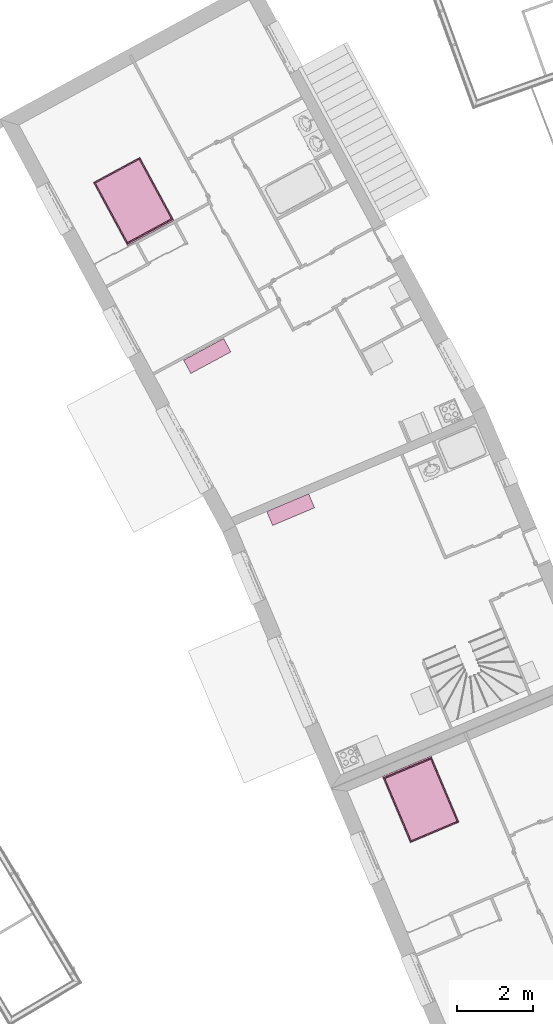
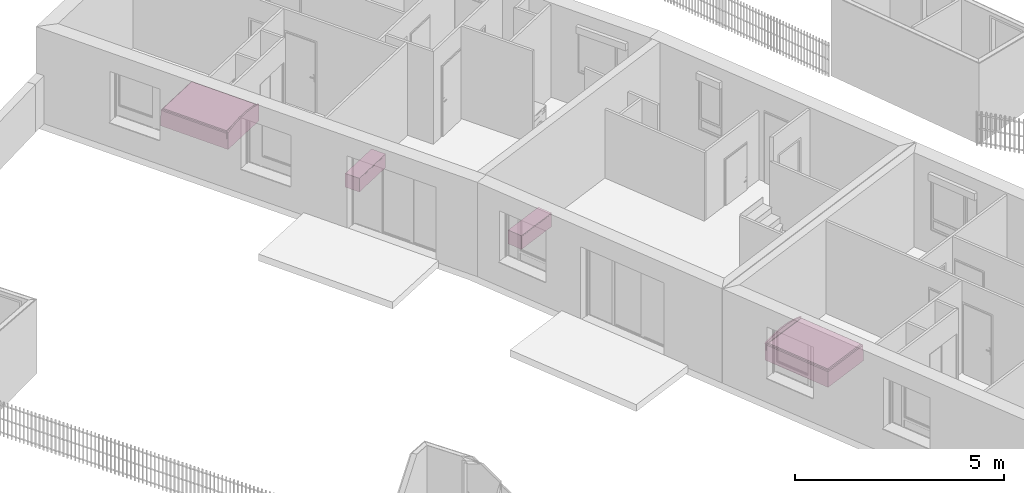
# One storey, part 159 of 195: 4 furnishings.
"""IFC2X3 building model written with IfcOpenShell, lengths in metres."""

from ifc_helpers import new_model, entity, si_unit, converted_unit, derived_unit, money_unit, direction, frame, origin_with_axes, place, context, subcontext, project, spatial, open_shell, faceted_brep, surface_model, source, transform, mapped, type_object, element, save


model = new_model("IFC2X3")

# Units and contexts
model_context = context("Model", 3, precision=1e-05, world=origin_with_axes(), true_north=direction((0.0, 1.0)))
body_context = subcontext(model_context, "Body", "Model", "MODEL_VIEW")
ifc_project = project(units=[si_unit("LENGTHUNIT", "METRE"), si_unit("AREAUNIT", "SQUARE_METRE"), si_unit("VOLUMEUNIT", "CUBIC_METRE"), converted_unit("PLANEANGLEUNIT", "DEGREE", entity("IfcPlaneAngleMeasure", 0.0174532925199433), si_unit("PLANEANGLEUNIT", "RADIAN"), dimensions=[0, 0, 0, 0, 0, 0, 0]), money_unit("CHF"), converted_unit("TIMEUNIT", "Year", entity("IfcTimeMeasure", 31557600.0), si_unit("TIMEUNIT", "SECOND"), dimensions=[0, 0, 1, 0, 0, 0, 0]), si_unit("MASSUNIT", "GRAM", prefix="KILO"), si_unit("THERMODYNAMICTEMPERATUREUNIT", "DEGREE_CELSIUS"), si_unit("LUMINOUSINTENSITYUNIT", "LUMEN"), si_unit("ENERGYUNIT", "JOULE", prefix="MEGA"), derived_unit("THERMALCONDUCTANCEUNIT", [(si_unit("POWERUNIT", "WATT"), 1), (si_unit("LENGTHUNIT", "METRE"), -1), (si_unit("THERMODYNAMICTEMPERATUREUNIT", "KELVIN"), -1)]), derived_unit("SPECIFICHEATCAPACITYUNIT", [(si_unit("ENERGYUNIT", "JOULE"), 1), (si_unit("MASSUNIT", "GRAM", prefix="KILO"), -1), (si_unit("THERMODYNAMICTEMPERATUREUNIT", "KELVIN"), -1)]), derived_unit("MASSDENSITYUNIT", [(si_unit("MASSUNIT", "GRAM", prefix="KILO"), 1), (si_unit("VOLUMEUNIT", "CUBIC_METRE"), -1)])], contexts=[model_context])

# Site, building, storey
site_placement = place(None, origin_with_axes())
site = spatial("IfcSite", under=ifc_project, at=site_placement, Name="Site", CompositionType="ELEMENT")
building_placement = place(site_placement, origin_with_axes())
building = spatial("IfcBuilding", under=site, at=building_placement, Name="Bâtiment", CompositionType="ELEMENT")
storey_placement = place(building_placement, origin_with_axes())
storey = spatial("IfcBuildingStorey", under=building, at=storey_placement, Name="rdc", CompositionType="ELEMENT", Elevation=0.0)

# Furnishings
furnishing_element_type_1 = type_object("IfcFurnishingElementType", Name="Meuble à plans 27")
shared_shape_1 = source(origin_with_axes(), body_context, "Body", "SurfaceModel", [
    surface_model("IfcShellBasedSurfaceModel", [(-1.18, 0.02, 0.0), (-1.18, 0.4, 0.0), (-0.02, 0.4, 0.0), (-0.02, 0.02, 0.0)], [open_shell([[[0, 1, 2, 3]]])]),
    faceted_brep([(0.0, 0.4, 0.0), (0.0, 0.0, 0.0), (-1.2, 0.0, 0.0), (-1.2, 0.4, 0.0), (0.0, 0.4, 0.4), (0.0, 0.0, 0.4), (-1.2, 0.0, 0.4), (-0.02, 0.0, 0.02), (-1.18, 0.0, 0.02), (-1.18, 0.0, 0.38), (-0.02, 0.0, 0.38), (-1.2, 0.4, 0.4), (-0.02, 0.4, 0.01999999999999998), (-0.02, 0.4, 0.38), (-1.18, 0.4, 0.38), (-1.18, 0.4, 0.01999999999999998)], [[[0, 1, 2, 3]], [[4, 5, 1, 0]], [[1, 5, 6, 2], [7, 8, 9, 10]], [[3, 2, 6, 11]], [[0, 3, 11, 4], [12, 13, 14, 15]], [[11, 6, 5, 4]], [[15, 8, 7, 12]], [[14, 9, 8, 15]], [[13, 10, 9, 14]], [[12, 7, 10, 13]]]),
    faceted_brep([(-1.18, 0.4, 0.01999999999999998), (-1.18, 0.4, 0.38), (-0.02, 0.4, 0.38), (-0.02, 0.4, 0.01999999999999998), (-1.18, 0.38, 0.01999999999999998), (-1.18, 0.3800000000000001, 0.38), (-0.02, 0.3800000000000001, 0.38), (-0.02, 0.38, 0.01999999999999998)], [[[0, 1, 2, 3]], [[0, 4, 5, 1]], [[1, 5, 6, 2]], [[2, 6, 7, 3]], [[3, 7, 4, 0]], [[7, 6, 5, 4]]]),
    faceted_brep([(-1.18, 0.0, 0.02), (-1.18, 0.38, 0.02), (-0.02, 0.38, 0.02), (-0.02, 0.0, 0.02), (-1.18, 0.0, 0.3750000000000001), (-1.18, 0.38, 0.3750000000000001), (-0.02, 0.38, 0.3750000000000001), (-0.02, 0.0, 0.3750000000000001)], [[[0, 1, 2, 3]], [[0, 4, 5, 1]], [[1, 5, 6, 2]], [[2, 6, 7, 3]], [[3, 7, 4, 0]], [[7, 6, 5, 4]]]),
])
for number, where, z_axis, x_axis, name in (
    (1, (9562.856587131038, -1037.918889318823, 57.92018680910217), (0.0, 0.0, 1.0), (0.9214205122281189, 0.3885669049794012, 0.0), "Obj.-376"),
    (2, (9560.64896007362, -1033.806633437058, 57.92018680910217), (0.0, 0.0, 1.0), (0.8798137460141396, 0.4753186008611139, 0.0), "Obj.-376"),
):
    element("IfcFurnishingElement", number, at=place(storey_placement, frame(where, z_axis=z_axis, x_axis=x_axis)), inside=storey, type_object=furnishing_element_type_1, Name=name, context=body_context, shape_type="MappedRepresentation", body=[
        mapped(shared_shape_1, transform((0.0, 0.0, 0.0))),
    ])
furnishing_element_type_2 = type_object("IfcFurnishingElementType", Name="Lit double 01")
shared_shape_2 = source(origin_with_axes(), body_context, "Body", "Brep", [
    faceted_brep([(0.0, 1.895, 0.0), (0.0, 1.865, 0.0), (-1.4, 1.865, 0.0), (-1.4, 1.895, 0.0), (0.0, 1.895, 0.48), (0.0, 1.865, 0.48), (-0.276362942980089, 1.865, 0.5438448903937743), (-0.558179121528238, 1.865, 0.5759741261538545), (-0.8418208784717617, 1.865, 0.5759741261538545), (-1.123637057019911, 1.865, 0.5438448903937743), (-1.4, 1.865, 0.48), (-1.4, 1.865, 0.4799), (-1.4, 1.895, 0.4799), (-1.4, 1.895, 0.48), (-1.123637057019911, 1.895, 0.5438448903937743), (-0.8418208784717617, 1.895, 0.5759741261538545), (-0.558179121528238, 1.895, 0.5759741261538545), (-0.276362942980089, 1.895, 0.5438448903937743)], [[[0, 1, 2, 3]], [[4, 5, 1, 0]], [[1, 5, 6, 7, 8, 9, 10, 11, 2]], [[3, 2, 11, 12]], [[0, 3, 12, 13, 14, 15, 16, 17, 4]], [[17, 6, 5, 4]], [[16, 7, 6, 17]], [[15, 8, 7, 16]], [[14, 9, 8, 15]], [[13, 10, 9, 14]], [[12, 11, 10, 13]]]),
    faceted_brep([(-1.4, 1.9, 0.48), (-1.4, 1.86, 0.48), (-1.399999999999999, 1.86, 0.4999999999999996), (-1.399999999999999, 1.9, 0.4999999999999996), (-1.123637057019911, 1.9, 0.5438448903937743), (-1.123637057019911, 1.86, 0.5438448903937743), (-0.8418208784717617, 1.86, 0.5759741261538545), (-0.558179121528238, 1.86, 0.5759741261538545), (-0.276362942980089, 1.86, 0.5438448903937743), (0.0, 1.86, 0.48), (0.0, 1.86, 0.4999), (0.0, 1.86, 0.5), (-0.276362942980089, 1.86, 0.5638448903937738), (-0.5581791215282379, 1.86, 0.5959741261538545), (-0.8418208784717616, 1.86, 0.5959741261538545), (-1.123637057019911, 1.86, 0.5638448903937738), (-1.123637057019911, 1.9, 0.5638448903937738), (-0.8418208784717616, 1.9, 0.5959741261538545), (-0.5581791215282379, 1.9, 0.5959741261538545), (-0.276362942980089, 1.9, 0.5638448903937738), (0.0, 1.9, 0.5), (0.0, 1.9, 0.4999), (0.0, 1.9, 0.48), (-0.276362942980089, 1.9, 0.5438448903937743), (-0.558179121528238, 1.9, 0.5759741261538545), (-0.8418208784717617, 1.9, 0.5759741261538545)], [[[0, 1, 2, 3]], [[4, 5, 1, 0]], [[1, 5, 6, 7, 8, 9, 10, 11, 12, 13, 14, 15, 2]], [[3, 2, 15, 16]], [[0, 3, 16, 17, 18, 19, 20, 21, 22, 23, 24, 25, 4]], [[25, 6, 5, 4]], [[24, 7, 6, 25]], [[23, 8, 7, 24]], [[22, 9, 8, 23]], [[21, 10, 9, 22]], [[20, 11, 10, 21]], [[19, 12, 11, 20]], [[18, 13, 12, 19]], [[17, 14, 13, 18]], [[16, 15, 14, 17]]]),
    faceted_brep([(-1.4, 0.0, 0.0), (-1.4, 1.865, 0.0), (0.0, 1.865, 0.0), (0.0, 0.0, 0.0), (-1.4, 0.0, 0.3), (-1.4, 1.865, 0.3), (0.0, 1.865, 0.3), (0.0, 0.0, 0.3)], [[[0, 1, 2, 3]], [[0, 4, 5, 1]], [[1, 5, 6, 2]], [[2, 6, 7, 3]], [[3, 7, 4, 0]], [[7, 6, 5, 4]]]),
    faceted_brep([(0.0, 0.02, 0.43), (-0.002679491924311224, 0.01, 0.43), (-0.009999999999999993, 0.002679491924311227, 0.43), (-0.01999999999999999, 0.0, 0.43), (-1.38, 0.0, 0.43), (-1.39, 0.002679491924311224, 0.43), (-1.397320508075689, 0.009999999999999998, 0.43), (-1.4, 0.02, 0.43), (-1.4, 1.845, 0.43), (-1.397320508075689, 1.855, 0.43), (-1.39, 1.862320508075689, 0.43), (-1.38, 1.865, 0.43), (-0.02, 1.865, 0.43), (-0.009999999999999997, 1.862320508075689, 0.43), (-0.002679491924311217, 1.855, 0.43), (0.0, 1.845, 0.43), (3.895163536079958e-10, 0.02000000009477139, 0.44), (-0.002679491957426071, 0.0100000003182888, 0.44), (-0.0100000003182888, 0.002679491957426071, 0.44), (-0.02000000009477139, -3.895163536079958e-10, 0.44), (-1.380000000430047, -3.895163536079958e-10, 0.44), (-1.39000000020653, 0.002679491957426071, 0.44), (-1.39732050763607, 0.0100000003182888, 0.44), (-1.399999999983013, 0.02000000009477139, 0.44), (-1.399999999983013, 1.845000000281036, 0.44), (-1.39732050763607, 1.855000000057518, 0.44), (-1.39000000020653, 1.862320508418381, 0.44), (-1.380000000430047, 1.864999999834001, 0.44), (-0.02000000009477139, 1.864999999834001, 0.44), (-0.0100000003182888, 1.862320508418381, 0.44), (-0.002679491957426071, 1.855000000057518, 0.44), (3.895163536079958e-10, 1.845000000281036, 0.44), (-0.002044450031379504, 0.02026915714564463, 0.4555291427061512), (-0.004512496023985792, 0.01105828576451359, 0.4555291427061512), (-0.01105828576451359, 0.004512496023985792, 0.4555291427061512), (-0.02026915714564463, 0.002044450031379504, 0.4555291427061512), (-1.379730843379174, 0.002044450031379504, 0.4555291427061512), (-1.388941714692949, 0.004512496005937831, 0.4555291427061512), (-1.395487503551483, 0.01105828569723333, 0.4555291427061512), (-1.397955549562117, 0.02026915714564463, 0.4555291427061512), (-1.397955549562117, 1.844730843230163, 0.4555291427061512), (-1.395487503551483, 1.853941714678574, 0.4555291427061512), (-1.388941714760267, 1.860487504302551, 0.4555291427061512), (-1.379730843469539, 1.862955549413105, 0.4555291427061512), (-0.02026915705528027, 1.862955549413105, 0.4555291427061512), (-0.01105828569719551, 1.860487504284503, 0.4555291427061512), (-0.004512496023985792, 1.853941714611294, 0.4555291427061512), (-0.002044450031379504, 1.844730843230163, 0.4555291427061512), (-0.01757359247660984, 0.02231360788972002, 0.4824264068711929), (-0.01843554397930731, 0.01909676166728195, 0.4824264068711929), (-0.01909676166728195, 0.01843554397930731, 0.4824264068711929), (-0.02231360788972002, 0.01757359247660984, 0.4824264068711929), (-1.377686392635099, 0.01757359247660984, 0.4824264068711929), (-1.380903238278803, 0.01843554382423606, 0.4824264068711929), (-1.381564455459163, 0.01909676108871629, 0.4824264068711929), (-1.382426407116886, 0.02231360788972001, 0.4824264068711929), (-1.382426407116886, 1.842686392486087, 0.4824264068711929), (-1.381564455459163, 1.845903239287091, 0.4824264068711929), (-1.380903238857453, 1.846564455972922, 0.4824264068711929), (-1.377686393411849, 1.847426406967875, 0.4824264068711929), (-0.02231360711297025, 1.847426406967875, 0.4824264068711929), (-0.01909676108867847, 1.846564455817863, 0.4824264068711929), (-0.01843554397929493, 1.845903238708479, 0.4824264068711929), (-0.01757359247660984, 1.842686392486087, 0.4824264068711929), (-0.02303225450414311, 0.02303225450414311, 0.4855779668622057), (-0.02000000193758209, 0.02000000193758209, 0.4834338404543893), (-0.04447085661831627, 0.04447085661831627, 0.4979555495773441), (-1.35552914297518, 0.04447085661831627, 0.4979555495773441), (-1.376967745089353, 0.02303225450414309, 0.4855779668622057), (-1.379999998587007, 0.02000000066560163, 0.4834338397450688), (-1.35552914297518, 1.820529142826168, 0.4979555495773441), (-1.376967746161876, 1.841967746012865, 0.4855779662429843), (-1.380000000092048, 1.845000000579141, 0.4834338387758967), (-0.04447085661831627, 1.820529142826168, 0.4979555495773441), (-0.02303225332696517, 1.841967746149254, 0.48557796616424), (-0.02000000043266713, 1.844999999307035, 0.4834338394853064), (-0.05999999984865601, 0.05999999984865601, 0.5000000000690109), (-1.33999999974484, 0.05999999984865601, 0.5000000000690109), (-1.33999999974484, 1.804999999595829, 0.5000000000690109), (-0.05999999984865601, 1.804999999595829, 0.5000000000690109)], [[[0, 1, 2, 3, 4, 5, 6, 7, 8, 9, 10, 11, 12, 13, 14, 15]], [[0, 16, 17, 1]], [[1, 17, 18, 2]], [[2, 18, 19, 3]], [[3, 19, 20, 4]], [[4, 20, 21, 5]], [[5, 21, 22, 6]], [[6, 22, 23, 7]], [[7, 23, 24, 8]], [[8, 24, 25, 9]], [[9, 25, 26, 10]], [[10, 26, 27, 11]], [[11, 27, 28, 12]], [[12, 28, 29, 13]], [[13, 29, 30, 14]], [[14, 30, 31, 15]], [[15, 31, 16, 0]], [[16, 32, 33, 17]], [[17, 33, 34, 18]], [[18, 34, 35, 19]], [[19, 35, 36, 20]], [[20, 36, 37, 21]], [[21, 37, 38, 22]], [[22, 38, 39, 23]], [[23, 39, 40, 24]], [[24, 40, 41, 25]], [[25, 41, 42, 26]], [[26, 42, 43, 27]], [[27, 43, 44, 28]], [[28, 44, 45, 29]], [[29, 45, 46, 30]], [[30, 46, 47, 31]], [[31, 47, 32, 16]], [[32, 48, 49, 33]], [[33, 49, 50, 34]], [[34, 50, 51, 35]], [[35, 51, 52, 36]], [[36, 52, 53, 37]], [[37, 53, 54, 38]], [[38, 54, 55, 39]], [[39, 55, 56, 40]], [[40, 56, 57, 41]], [[41, 57, 58, 42]], [[42, 58, 59, 43]], [[43, 59, 60, 44]], [[44, 60, 61, 45]], [[45, 61, 62, 46]], [[46, 62, 63, 47]], [[47, 63, 48, 32]], [[48, 64, 65, 49]], [[49, 65, 50]], [[50, 65, 64, 51]], [[51, 64, 66, 67, 68, 52]], [[52, 68, 69, 53]], [[53, 69, 54]], [[54, 69, 68, 55]], [[55, 68, 67, 70, 71, 56]], [[56, 71, 72, 57]], [[57, 72, 58]], [[58, 72, 71, 59]], [[59, 71, 70, 73, 74, 60]], [[60, 74, 75, 61]], [[61, 75, 62]], [[62, 75, 74, 63]], [[63, 74, 73, 66, 64, 48]], [[66, 76, 77, 67]], [[67, 77, 78, 70]], [[70, 78, 79, 73]], [[73, 79, 76, 66]], [[78, 77, 76, 79]]]),
    faceted_brep([(-1.39000000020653, 0.002679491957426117, 0.2999999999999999), (-1.39, 0.002679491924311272, 0.3099999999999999), (-1.397320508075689, 0.01000000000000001, 0.3099999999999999), (-1.39732050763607, 0.01000000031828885, 0.2999999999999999), (-1.380000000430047, -3.895163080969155e-10, 0.2999999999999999), (-1.38, 0.0, 0.3099999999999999), (-1.4, 0.02000000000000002, 0.3099999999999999), (-0.02000000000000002, 0.0, 0.3099999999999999), (-0.01000000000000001, 0.002679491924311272, 0.3099999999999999), (-0.002679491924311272, 0.01000000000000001, 0.3099999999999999), (0.0, 0.02000000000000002, 0.3099999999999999), (0.0, 1.845, 0.3099999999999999), (-0.002679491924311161, 1.855, 0.3099999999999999), (-0.01000000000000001, 1.862320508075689, 0.3099999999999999), (-0.02000000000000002, 1.865, 0.3099999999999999), (-1.38, 1.865, 0.3099999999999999), (-1.39, 1.862320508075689, 0.3099999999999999), (-1.397320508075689, 1.855, 0.3099999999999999), (-1.4, 1.845, 0.3099999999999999), (-1.399999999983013, 0.02000000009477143, 0.2999999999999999), (-1.399999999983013, 1.845000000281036, 0.2999999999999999), (-1.39732050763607, 1.855000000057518, 0.2999999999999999), (-1.39000000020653, 1.862320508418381, 0.2999999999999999), (-1.380000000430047, 1.864999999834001, 0.2999999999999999), (-0.02000000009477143, 1.864999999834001, 0.2999999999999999), (-0.01000000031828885, 1.862320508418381, 0.2999999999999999), (-0.002679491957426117, 1.855000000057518, 0.2999999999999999), (3.895163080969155e-10, 1.845000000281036, 0.2999999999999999), (3.895163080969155e-10, 0.02000000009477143, 0.2999999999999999), (-0.002679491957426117, 0.01000000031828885, 0.2999999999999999), (-0.01000000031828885, 0.002679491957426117, 0.2999999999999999), (-0.02000000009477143, -3.895163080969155e-10, 0.2999999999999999)], [[[0, 1, 2, 3]], [[1, 0, 4, 5]], [[6, 2, 1, 5, 7, 8, 9, 10, 11, 12, 13, 14, 15, 16, 17, 18]], [[3, 2, 6, 19]], [[3, 19, 20, 21, 22, 23, 24, 25, 26, 27, 28, 29, 30, 31, 4, 0]], [[7, 5, 4, 31]], [[30, 8, 7, 31]], [[8, 30, 29, 9]], [[9, 29, 28, 10]], [[10, 28, 27, 11]], [[26, 12, 11, 27]], [[12, 26, 25, 13]], [[25, 24, 14, 13]], [[24, 23, 15, 14]], [[22, 16, 15, 23]], [[21, 17, 16, 22]], [[17, 21, 20, 18]], [[19, 6, 18, 20]]]),
    faceted_brep([(0.0, 0.02, 0.3099999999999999), (0.0, 0.02, 0.4299999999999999), (-0.002679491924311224, 0.01, 0.4299999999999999), (-0.002679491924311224, 0.01, 0.3099999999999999), (0.0, 1.845, 0.3099999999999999), (0.0, 1.845, 0.4299999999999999), (-0.002679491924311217, 1.855, 0.4299999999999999), (-0.009999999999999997, 1.862320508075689, 0.4299999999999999), (-0.02, 1.865, 0.4299999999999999), (-1.38, 1.865, 0.4299999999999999), (-1.39, 1.862320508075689, 0.4299999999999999), (-1.397320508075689, 1.855, 0.4299999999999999), (-1.4, 1.845, 0.4299999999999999), (-1.4, 0.02, 0.4299999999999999), (-1.397320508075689, 0.009999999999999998, 0.4299999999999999), (-1.39, 0.002679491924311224, 0.4299999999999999), (-1.38, 0.0, 0.4299999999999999), (-0.01999999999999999, 0.0, 0.4299999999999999), (-0.009999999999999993, 0.002679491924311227, 0.4299999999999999), (-0.009999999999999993, 0.002679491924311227, 0.3099999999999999), (-0.01999999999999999, 0.0, 0.3099999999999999), (-1.38, 0.0, 0.3099999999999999), (-1.39, 0.002679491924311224, 0.3099999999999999), (-1.397320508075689, 0.009999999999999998, 0.3099999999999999), (-1.4, 0.02, 0.3099999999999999), (-1.4, 1.845, 0.3099999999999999), (-1.397320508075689, 1.855, 0.3099999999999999), (-1.39, 1.862320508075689, 0.3099999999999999), (-1.38, 1.865, 0.3099999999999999), (-0.02, 1.865, 0.3099999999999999), (-0.009999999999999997, 1.862320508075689, 0.3099999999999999), (-0.002679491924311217, 1.855, 0.3099999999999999)], [[[0, 1, 2, 3]], [[4, 5, 1, 0]], [[1, 5, 6, 7, 8, 9, 10, 11, 12, 13, 14, 15, 16, 17, 18, 2]], [[3, 2, 18, 19]], [[0, 3, 19, 20, 21, 22, 23, 24, 25, 26, 27, 28, 29, 30, 31, 4]], [[31, 6, 5, 4]], [[30, 7, 6, 31]], [[29, 8, 7, 30]], [[28, 9, 8, 29]], [[27, 10, 9, 28]], [[26, 11, 10, 27]], [[25, 12, 11, 26]], [[24, 13, 12, 25]], [[23, 14, 13, 24]], [[22, 15, 14, 23]], [[21, 16, 15, 22]], [[20, 17, 16, 21]], [[19, 18, 17, 20]]]),
])
furnishing_1_placement = place(storey_placement, frame((9557.018131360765, -1029.335540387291, 57.7), z_axis=(0.0, 0.0, 1.0), x_axis=(-0.8798137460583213, -0.4753186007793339, 0.0)))
element("IfcFurnishingElement", 3, at=furnishing_1_placement, inside=storey, type_object=furnishing_element_type_2, Name="Obj.-002", context=body_context, shape_type="MappedRepresentation", body=[
    mapped(shared_shape_2, transform((0.0, 0.0, 0.0))),
])
shared_shape_3 = source(origin_with_axes(), body_context, "Body", "Brep", [
    faceted_brep([(0.0, 1.895, 0.0), (1.4, 1.895, 0.0), (1.4, 1.865, 0.0), (0.0, 1.865, 0.0), (0.0, 1.895, 0.48), (0.276362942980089, 1.895, 0.5438448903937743), (0.558179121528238, 1.895, 0.5759741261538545), (0.8418208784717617, 1.895, 0.5759741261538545), (1.123637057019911, 1.895, 0.5438448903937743), (1.4, 1.895, 0.48), (1.4, 1.895, 0.4799), (1.4, 1.865, 0.4799), (1.4, 1.865, 0.48), (1.123637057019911, 1.865, 0.5438448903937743), (0.8418208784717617, 1.865, 0.5759741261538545), (0.558179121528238, 1.865, 0.5759741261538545), (0.276362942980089, 1.865, 0.5438448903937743), (0.0, 1.865, 0.48)], [[[0, 1, 2, 3]], [[0, 4, 5, 6, 7, 8, 9, 10, 1]], [[1, 10, 11, 2]], [[3, 2, 11, 12, 13, 14, 15, 16, 17]], [[4, 0, 3, 17]], [[5, 4, 17, 16]], [[6, 5, 16, 15]], [[7, 6, 15, 14]], [[8, 7, 14, 13]], [[9, 8, 13, 12]], [[10, 9, 12, 11]]]),
    faceted_brep([(1.4, 1.9, 0.48), (1.399999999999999, 1.9, 0.4999999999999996), (1.399999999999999, 1.86, 0.4999999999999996), (1.4, 1.86, 0.48), (1.123637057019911, 1.9, 0.5438448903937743), (0.8418208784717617, 1.9, 0.5759741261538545), (0.558179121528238, 1.9, 0.5759741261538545), (0.276362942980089, 1.9, 0.5438448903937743), (0.0, 1.9, 0.48), (0.0, 1.9, 0.4999), (0.0, 1.9, 0.5), (0.276362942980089, 1.9, 0.5638448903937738), (0.5581791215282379, 1.9, 0.5959741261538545), (0.8418208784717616, 1.9, 0.5959741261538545), (1.123637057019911, 1.9, 0.5638448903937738), (1.123637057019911, 1.86, 0.5638448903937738), (0.8418208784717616, 1.86, 0.5959741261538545), (0.5581791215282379, 1.86, 0.5959741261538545), (0.276362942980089, 1.86, 0.5638448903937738), (0.0, 1.86, 0.5), (0.0, 1.86, 0.4999), (0.0, 1.86, 0.48), (0.276362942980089, 1.86, 0.5438448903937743), (0.558179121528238, 1.86, 0.5759741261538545), (0.8418208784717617, 1.86, 0.5759741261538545), (1.123637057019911, 1.86, 0.5438448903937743)], [[[0, 1, 2, 3]], [[0, 4, 5, 6, 7, 8, 9, 10, 11, 12, 13, 14, 1]], [[1, 14, 15, 2]], [[3, 2, 15, 16, 17, 18, 19, 20, 21, 22, 23, 24, 25]], [[4, 0, 3, 25]], [[5, 4, 25, 24]], [[6, 5, 24, 23]], [[7, 6, 23, 22]], [[8, 7, 22, 21]], [[9, 8, 21, 20]], [[10, 9, 20, 19]], [[11, 10, 19, 18]], [[12, 11, 18, 17]], [[13, 12, 17, 16]], [[14, 13, 16, 15]]]),
    faceted_brep([(1.4, 0.0, 0.0), (0.0, 0.0, 0.0), (0.0, 1.865, 0.0), (1.4, 1.865, 0.0), (1.4, 0.0, 0.3), (0.0, 0.0, 0.3), (0.0, 1.865, 0.3), (1.4, 1.865, 0.3)], [[[0, 1, 2, 3]], [[1, 0, 4, 5]], [[2, 1, 5, 6]], [[3, 2, 6, 7]], [[0, 3, 7, 4]], [[5, 4, 7, 6]]]),
    faceted_brep([(0.0, 0.02, 0.43), (0.0, 1.845, 0.43), (0.002679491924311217, 1.855, 0.43), (0.009999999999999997, 1.862320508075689, 0.43), (0.02, 1.865, 0.43), (1.38, 1.865, 0.43), (1.39, 1.862320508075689, 0.43), (1.397320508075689, 1.855, 0.43), (1.4, 1.845, 0.43), (1.4, 0.02, 0.43), (1.397320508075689, 0.009999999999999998, 0.43), (1.39, 0.002679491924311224, 0.43), (1.38, 0.0, 0.43), (0.01999999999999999, 0.0, 0.43), (0.009999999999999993, 0.002679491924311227, 0.43), (0.002679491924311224, 0.01, 0.43), (-3.895163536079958e-10, 0.02000000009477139, 0.44), (-3.895163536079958e-10, 1.845000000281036, 0.44), (0.002679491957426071, 1.855000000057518, 0.44), (0.0100000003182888, 1.862320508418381, 0.44), (0.02000000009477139, 1.864999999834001, 0.44), (1.380000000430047, 1.864999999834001, 0.44), (1.39000000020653, 1.862320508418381, 0.44), (1.39732050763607, 1.855000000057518, 0.44), (1.399999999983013, 1.845000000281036, 0.44), (1.399999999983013, 0.02000000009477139, 0.44), (1.39732050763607, 0.0100000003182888, 0.44), (1.39000000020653, 0.002679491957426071, 0.44), (1.380000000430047, -3.895163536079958e-10, 0.44), (0.02000000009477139, -3.895163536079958e-10, 0.44), (0.0100000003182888, 0.002679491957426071, 0.44), (0.002679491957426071, 0.0100000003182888, 0.44), (0.002044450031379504, 0.02026915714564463, 0.4555291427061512), (0.002044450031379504, 1.844730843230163, 0.4555291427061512), (0.004512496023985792, 1.853941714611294, 0.4555291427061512), (0.01105828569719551, 1.860487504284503, 0.4555291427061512), (0.02026915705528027, 1.862955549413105, 0.4555291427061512), (1.379730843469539, 1.862955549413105, 0.4555291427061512), (1.388941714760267, 1.860487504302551, 0.4555291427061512), (1.395487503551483, 1.853941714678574, 0.4555291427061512), (1.397955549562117, 1.844730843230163, 0.4555291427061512), (1.397955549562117, 0.02026915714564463, 0.4555291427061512), (1.395487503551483, 0.01105828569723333, 0.4555291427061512), (1.388941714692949, 0.004512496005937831, 0.4555291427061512), (1.379730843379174, 0.002044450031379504, 0.4555291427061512), (0.02026915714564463, 0.002044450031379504, 0.4555291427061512), (0.01105828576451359, 0.004512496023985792, 0.4555291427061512), (0.004512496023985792, 0.01105828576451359, 0.4555291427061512), (0.01757359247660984, 0.02231360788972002, 0.4824264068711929), (0.01757359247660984, 1.842686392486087, 0.4824264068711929), (0.01843554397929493, 1.845903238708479, 0.4824264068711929), (0.01909676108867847, 1.846564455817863, 0.4824264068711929), (0.02231360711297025, 1.847426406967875, 0.4824264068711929), (1.377686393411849, 1.847426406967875, 0.4824264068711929), (1.380903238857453, 1.846564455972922, 0.4824264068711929), (1.381564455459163, 1.845903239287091, 0.4824264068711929), (1.382426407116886, 1.842686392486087, 0.4824264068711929), (1.382426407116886, 0.02231360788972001, 0.4824264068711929), (1.381564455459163, 0.01909676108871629, 0.4824264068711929), (1.380903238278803, 0.01843554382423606, 0.4824264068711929), (1.377686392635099, 0.01757359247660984, 0.4824264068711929), (0.02231360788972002, 0.01757359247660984, 0.4824264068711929), (0.01909676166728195, 0.01843554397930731, 0.4824264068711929), (0.01843554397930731, 0.01909676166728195, 0.4824264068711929), (0.02303225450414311, 0.02303225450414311, 0.4855779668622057), (0.04447085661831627, 0.04447085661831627, 0.4979555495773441), (0.04447085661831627, 1.820529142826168, 0.4979555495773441), (0.02303225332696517, 1.841967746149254, 0.48557796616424), (0.02000000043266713, 1.844999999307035, 0.4834338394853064), (1.35552914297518, 1.820529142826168, 0.4979555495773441), (1.376967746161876, 1.841967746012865, 0.4855779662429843), (1.380000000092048, 1.845000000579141, 0.4834338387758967), (1.35552914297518, 0.04447085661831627, 0.4979555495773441), (1.376967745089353, 0.02303225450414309, 0.4855779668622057), (1.379999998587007, 0.02000000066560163, 0.4834338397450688), (0.02000000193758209, 0.02000000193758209, 0.4834338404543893), (0.05999999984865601, 0.05999999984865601, 0.5000000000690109), (0.05999999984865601, 1.804999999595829, 0.5000000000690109), (1.33999999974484, 1.804999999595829, 0.5000000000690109), (1.33999999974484, 0.05999999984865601, 0.5000000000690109)], [[[0, 1, 2, 3, 4, 5, 6, 7, 8, 9, 10, 11, 12, 13, 14, 15]], [[1, 0, 16, 17]], [[2, 1, 17, 18]], [[3, 2, 18, 19]], [[4, 3, 19, 20]], [[5, 4, 20, 21]], [[6, 5, 21, 22]], [[7, 6, 22, 23]], [[8, 7, 23, 24]], [[9, 8, 24, 25]], [[10, 9, 25, 26]], [[11, 10, 26, 27]], [[12, 11, 27, 28]], [[13, 12, 28, 29]], [[14, 13, 29, 30]], [[15, 14, 30, 31]], [[0, 15, 31, 16]], [[17, 16, 32, 33]], [[18, 17, 33, 34]], [[19, 18, 34, 35]], [[20, 19, 35, 36]], [[21, 20, 36, 37]], [[22, 21, 37, 38]], [[23, 22, 38, 39]], [[24, 23, 39, 40]], [[25, 24, 40, 41]], [[26, 25, 41, 42]], [[27, 26, 42, 43]], [[28, 27, 43, 44]], [[29, 28, 44, 45]], [[30, 29, 45, 46]], [[31, 30, 46, 47]], [[16, 31, 47, 32]], [[33, 32, 48, 49]], [[34, 33, 49, 50]], [[35, 34, 50, 51]], [[36, 35, 51, 52]], [[37, 36, 52, 53]], [[38, 37, 53, 54]], [[39, 38, 54, 55]], [[40, 39, 55, 56]], [[41, 40, 56, 57]], [[42, 41, 57, 58]], [[43, 42, 58, 59]], [[44, 43, 59, 60]], [[45, 44, 60, 61]], [[46, 45, 61, 62]], [[47, 46, 62, 63]], [[32, 47, 63, 48]], [[49, 48, 64, 65, 66, 67]], [[50, 49, 67, 68]], [[51, 50, 68]], [[52, 51, 68, 67]], [[53, 52, 67, 66, 69, 70]], [[54, 53, 70, 71]], [[55, 54, 71]], [[56, 55, 71, 70]], [[57, 56, 70, 69, 72, 73]], [[58, 57, 73, 74]], [[59, 58, 74]], [[60, 59, 74, 73]], [[61, 60, 73, 72, 65, 64]], [[62, 61, 64, 75]], [[63, 62, 75]], [[48, 63, 75, 64]], [[66, 65, 76, 77]], [[69, 66, 77, 78]], [[72, 69, 78, 79]], [[65, 72, 79, 76]], [[78, 77, 76, 79]]]),
    faceted_brep([(0.0, 0.02000000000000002, 0.3099999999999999), (-3.895163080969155e-10, 0.02000000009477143, 0.2999999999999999), (0.002679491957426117, 0.01000000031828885, 0.2999999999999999), (0.002679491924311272, 0.01000000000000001, 0.3099999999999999), (0.0, 1.845, 0.3099999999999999), (-3.895163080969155e-10, 1.845000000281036, 0.2999999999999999), (0.002679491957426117, 1.855000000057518, 0.2999999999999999), (0.01000000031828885, 1.862320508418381, 0.2999999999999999), (0.02000000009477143, 1.864999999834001, 0.2999999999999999), (1.380000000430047, 1.864999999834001, 0.2999999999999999), (1.39000000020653, 1.862320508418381, 0.2999999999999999), (1.39732050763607, 1.855000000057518, 0.2999999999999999), (1.399999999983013, 1.845000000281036, 0.2999999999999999), (1.399999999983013, 0.02000000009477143, 0.2999999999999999), (1.39732050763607, 0.01000000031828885, 0.2999999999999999), (1.39000000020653, 0.002679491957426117, 0.2999999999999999), (1.380000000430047, -3.895163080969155e-10, 0.2999999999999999), (0.02000000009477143, -3.895163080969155e-10, 0.2999999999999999), (0.01000000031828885, 0.002679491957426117, 0.2999999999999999), (0.01000000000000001, 0.002679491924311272, 0.3099999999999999), (0.02000000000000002, 0.0, 0.3099999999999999), (1.38, 0.0, 0.3099999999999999), (1.39, 0.002679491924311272, 0.3099999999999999), (1.397320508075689, 0.01000000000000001, 0.3099999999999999), (1.4, 0.02000000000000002, 0.3099999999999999), (1.4, 1.845, 0.3099999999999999), (1.397320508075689, 1.855, 0.3099999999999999), (1.39, 1.862320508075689, 0.3099999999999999), (1.38, 1.865, 0.3099999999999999), (0.02000000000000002, 1.865, 0.3099999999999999), (0.01000000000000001, 1.862320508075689, 0.3099999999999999), (0.002679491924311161, 1.855, 0.3099999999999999)], [[[0, 1, 2, 3]], [[1, 0, 4, 5]], [[2, 1, 5, 6, 7, 8, 9, 10, 11, 12, 13, 14, 15, 16, 17, 18]], [[3, 2, 18, 19]], [[3, 19, 20, 21, 22, 23, 24, 25, 26, 27, 28, 29, 30, 31, 4, 0]], [[5, 4, 31, 6]], [[6, 31, 30, 7]], [[7, 30, 29, 8]], [[8, 29, 28, 9]], [[27, 10, 9, 28]], [[10, 27, 26, 11]], [[11, 26, 25, 12]], [[24, 13, 12, 25]], [[23, 14, 13, 24]], [[22, 15, 14, 23]], [[21, 16, 15, 22]], [[20, 17, 16, 21]], [[18, 17, 20, 19]]]),
    faceted_brep([(0.0, 0.02, 0.3099999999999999), (0.002679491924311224, 0.01, 0.3099999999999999), (0.002679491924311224, 0.01, 0.4299999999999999), (0.0, 0.02, 0.4299999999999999), (0.0, 1.845, 0.3099999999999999), (0.002679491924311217, 1.855, 0.3099999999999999), (0.009999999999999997, 1.862320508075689, 0.3099999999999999), (0.02, 1.865, 0.3099999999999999), (1.38, 1.865, 0.3099999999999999), (1.39, 1.862320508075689, 0.3099999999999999), (1.397320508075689, 1.855, 0.3099999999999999), (1.4, 1.845, 0.3099999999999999), (1.4, 0.02, 0.3099999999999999), (1.397320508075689, 0.009999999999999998, 0.3099999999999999), (1.39, 0.002679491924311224, 0.3099999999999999), (1.38, 0.0, 0.3099999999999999), (0.01999999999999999, 0.0, 0.3099999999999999), (0.009999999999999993, 0.002679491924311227, 0.3099999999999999), (0.009999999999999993, 0.002679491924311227, 0.4299999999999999), (0.01999999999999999, 0.0, 0.4299999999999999), (1.38, 0.0, 0.4299999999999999), (1.39, 0.002679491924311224, 0.4299999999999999), (1.397320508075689, 0.009999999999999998, 0.4299999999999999), (1.4, 0.02, 0.4299999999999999), (1.4, 1.845, 0.4299999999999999), (1.397320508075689, 1.855, 0.4299999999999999), (1.39, 1.862320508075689, 0.4299999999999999), (1.38, 1.865, 0.4299999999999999), (0.02, 1.865, 0.4299999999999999), (0.009999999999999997, 1.862320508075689, 0.4299999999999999), (0.002679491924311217, 1.855, 0.4299999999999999), (0.0, 1.845, 0.4299999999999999)], [[[0, 1, 2, 3]], [[0, 4, 5, 6, 7, 8, 9, 10, 11, 12, 13, 14, 15, 16, 17, 1]], [[1, 17, 18, 2]], [[3, 2, 18, 19, 20, 21, 22, 23, 24, 25, 26, 27, 28, 29, 30, 31]], [[4, 0, 3, 31]], [[5, 4, 31, 30]], [[6, 5, 30, 29]], [[7, 6, 29, 28]], [[8, 7, 28, 27]], [[9, 8, 27, 26]], [[10, 9, 26, 25]], [[11, 10, 25, 24]], [[12, 11, 24, 23]], [[13, 12, 23, 22]], [[14, 13, 22, 21]], [[15, 14, 21, 20]], [[16, 15, 20, 19]], [[17, 16, 19, 18]]]),
])
furnishing_2_placement = place(storey_placement, frame((9565.380602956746, -1046.755124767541, 57.7), z_axis=(0.0, 0.0, 1.0), x_axis=(0.9214205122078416, 0.3885669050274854, 0.0)))
element("IfcFurnishingElement", 4, at=furnishing_2_placement, inside=storey, type_object=furnishing_element_type_2, Name="Obj.-002", context=body_context, shape_type="MappedRepresentation", body=[
    mapped(shared_shape_3, transform((0.0, 0.0, 0.0))),
])

save(model, "model.ifc")
